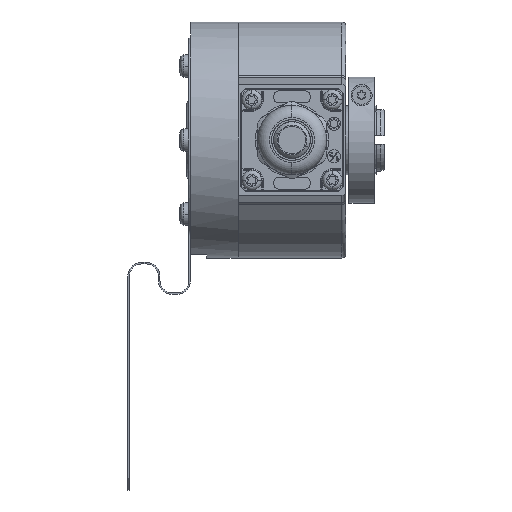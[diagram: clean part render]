
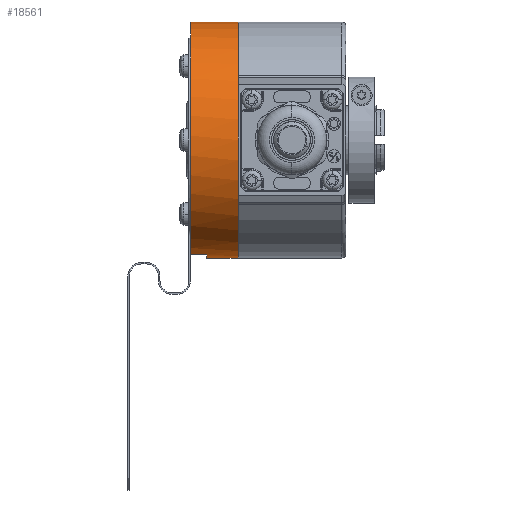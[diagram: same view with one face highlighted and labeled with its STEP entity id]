
A CAD part, front view. The second image highlights one B-rep face of the part: STEP entity #18561.
In plain terms, the highlighted cylindrical face has radius 29 mm (diameter 58 mm), a partial arc.
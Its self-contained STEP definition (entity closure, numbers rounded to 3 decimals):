
#15 = ORIENTED_EDGE ( 'NONE', *, *, #20870, .T. ) ;
#425 = VERTEX_POINT ( 'NONE', #15016 ) ;
#607 = ORIENTED_EDGE ( 'NONE', *, *, #13746, .T. ) ;
#1212 = LINE ( 'NONE', #1748, #1727 ) ;
#1727 = VECTOR ( 'NONE', #10279, 1000. ) ;
#1728 = DIRECTION ( 'NONE',  ( 1., 0., 0. ) ) ;
#1748 = CARTESIAN_POINT ( 'NONE',  ( 8.068, 25.423, -29. ) ) ;
#1809 = CARTESIAN_POINT ( 'NONE',  ( 0.378, 25.423, 0. ) ) ;
#3517 = CARTESIAN_POINT ( 'NONE',  ( 8.068, 18.423, -28.142 ) ) ;
#3530 = VECTOR ( 'NONE', #10074, 1000. ) ;
#4017 = EDGE_CURVE ( 'NONE', #9092, #21001, #23529, .T. ) ;
#4028 = DIRECTION ( 'NONE',  ( 0., 0., -1. ) ) ;
#4366 = CARTESIAN_POINT ( 'NONE',  ( 8.068, 25.423, 29. ) ) ;
#4376 = VERTEX_POINT ( 'NONE', #27136 ) ;
#5237 = EDGE_CURVE ( 'NONE', #21001, #4376, #22816, .T. ) ;
#5925 = CARTESIAN_POINT ( 'NONE',  ( 8.068, 25.423, 0. ) ) ;
#6195 = DIRECTION ( 'NONE',  ( 0., 0., -1. ) ) ;
#8553 = CARTESIAN_POINT ( 'NONE',  ( -3.622, 18.423, -28.142 ) ) ;
#8717 = ORIENTED_EDGE ( 'NONE', *, *, #11856, .T. ) ;
#9092 = VERTEX_POINT ( 'NONE', #13949 ) ;
#9176 = CIRCLE ( 'NONE', #24392, 29. ) ;
#9854 = AXIS2_PLACEMENT_3D ( 'NONE', #12882, #15116, #21851 ) ;
#10074 = DIRECTION ( 'NONE',  ( -1., 0., 0. ) ) ;
#10279 = DIRECTION ( 'NONE',  ( 1., 0., 0. ) ) ;
#10390 = FACE_OUTER_BOUND ( 'NONE', #17966, .T. ) ;
#10473 = DIRECTION ( 'NONE',  ( 1., 0., 0. ) ) ;
#10505 = DIRECTION ( 'NONE',  ( 1., 0., 0. ) ) ;
#10654 = VECTOR ( 'NONE', #10505, 1000. ) ;
#11643 = VERTEX_POINT ( 'NONE', #26093 ) ;
#11823 = CIRCLE ( 'NONE', #15392, 29. ) ;
#11856 = EDGE_CURVE ( 'NONE', #425, #11643, #9176, .T. ) ;
#12051 = LINE ( 'NONE', #3517, #3530 ) ;
#12882 = CARTESIAN_POINT ( 'NONE',  ( 8.068, 25.423, 0. ) ) ;
#13746 = EDGE_CURVE ( 'NONE', #11643, #4376, #1212, .T. ) ;
#13860 = ORIENTED_EDGE ( 'NONE', *, *, #24516, .F. ) ;
#13949 = CARTESIAN_POINT ( 'NONE',  ( -3.622, 25.423, 29. ) ) ;
#15016 = CARTESIAN_POINT ( 'NONE',  ( 0.378, 18.423, -28.142 ) ) ;
#15116 = DIRECTION ( 'NONE',  ( 1., 0., 0. ) ) ;
#15183 = CARTESIAN_POINT ( 'NONE',  ( 8.068, 25.423, 29. ) ) ;
#15392 = AXIS2_PLACEMENT_3D ( 'NONE', #19105, #24867, #4028 ) ;
#16638 = DIRECTION ( 'NONE',  ( 0., 0., 1. ) ) ;
#17441 = VERTEX_POINT ( 'NONE', #8553 ) ;
#17966 = EDGE_LOOP ( 'NONE', ( #23782, #15, #13860, #8717, #607, #24075 ) ) ;
#18561 = ADVANCED_FACE ( 'NONE', ( #10390 ), #23417, .T. ) ;
#19105 = CARTESIAN_POINT ( 'NONE',  ( -3.622, 25.423, 0. ) ) ;
#20304 = AXIS2_PLACEMENT_3D ( 'NONE', #5925, #1728, #6195 ) ;
#20870 = EDGE_CURVE ( 'NONE', #9092, #17441, #11823, .T. ) ;
#21001 = VERTEX_POINT ( 'NONE', #15183 ) ;
#21851 = DIRECTION ( 'NONE',  ( 0., 0., -1. ) ) ;
#22816 = CIRCLE ( 'NONE', #9854, 29. ) ;
#23417 = CYLINDRICAL_SURFACE ( 'NONE', #20304, 29. ) ;
#23529 = LINE ( 'NONE', #4366, #10654 ) ;
#23782 = ORIENTED_EDGE ( 'NONE', *, *, #4017, .F. ) ;
#24075 = ORIENTED_EDGE ( 'NONE', *, *, #5237, .F. ) ;
#24392 = AXIS2_PLACEMENT_3D ( 'NONE', #1809, #10473, #16638 ) ;
#24516 = EDGE_CURVE ( 'NONE', #425, #17441, #12051, .T. ) ;
#24867 = DIRECTION ( 'NONE',  ( 1., 0., 0. ) ) ;
#26093 = CARTESIAN_POINT ( 'NONE',  ( 0.378, 25.423, -29. ) ) ;
#27136 = CARTESIAN_POINT ( 'NONE',  ( 8.068, 25.423, -29. ) ) ;
